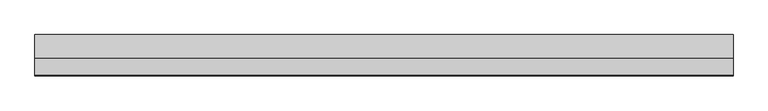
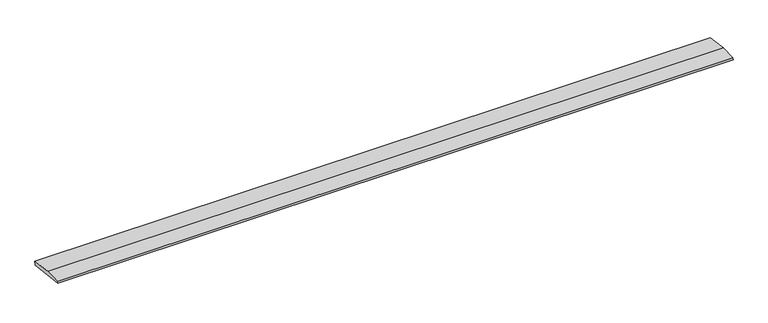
"""IFC4 building model written with IfcOpenShell, lengths in millimetres: beam geometry, weatherboad : weatherboad."""

from ifc_helpers import new_model, si_unit, frame, origin, place, context, project, spatial, polyline, outline, extrude, source, transform, mapped, element, save


def beam_21b49bcd(model_context):
    return source(origin(), model_context, "Body", "SweptSolid", [
        extrude(outline(polyline([(0.0, -9.143159), (1.1226388, 0.0), (79.0749747, 0.0), (180.9387048, -12.5072934), (178.6231873, -31.3656703), (0.0, -9.143159)])), frame((-1530.4577142, 0.0, 0.0), z_axis=(1.0, 0.0, 0.0), x_axis=(0.0, 1.0, 0.0)), (0.0, 0.0, 1.0), 3060.9154285),
    ])


if __name__ == "__main__":
    model = new_model("IFC4")
    model_context = context("Model", 3, world=origin())
    ifc_project = project(units=[si_unit("LENGTHUNIT", "METRE", prefix="MILLI")], contexts=[model_context])
    site = spatial("IfcSite", under=ifc_project)
    building = spatial("IfcBuilding", under=site)
    placement = place(None, origin())
    beam_shape = beam_21b49bcd(model_context)
    element("IfcBeam", 1, ObjectType="weatherboad : weatherboad", at=placement, inside=building, context=model_context, shape_type="MappedRepresentation", body=[
        mapped(beam_shape, transform((0.0, 0.0, 0.0), x_axis=(1.0, 0.0, 0.0), y_axis=(0.0, 1.0, 0.0), z_axis=(0.0, 0.0, 1.0))),
    ])
    save(model, "model.ifc")
